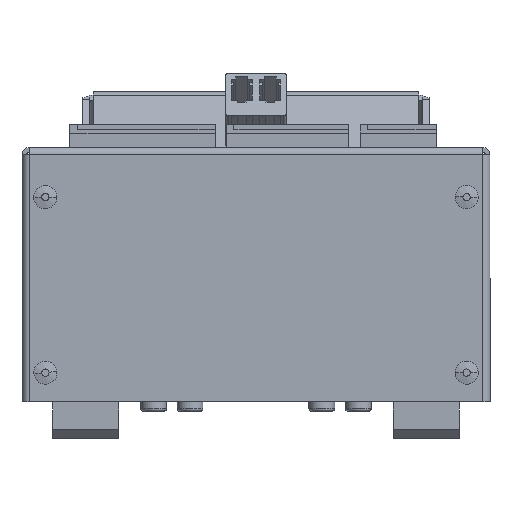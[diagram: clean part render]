
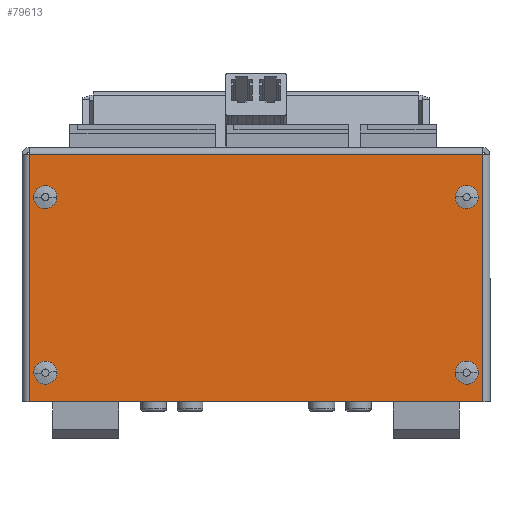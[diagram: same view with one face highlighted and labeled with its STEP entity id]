
A CAD part, front view. The second image highlights one B-rep face of the part: STEP entity #79613.
In plain terms, the highlighted planar face has unit normal (0, -1, 0).
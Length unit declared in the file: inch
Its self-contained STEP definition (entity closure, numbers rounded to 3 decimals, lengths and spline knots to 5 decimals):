
#3731 = EDGE_LOOP ( 'NONE', ( #33703, #73551 ) ) ;
#4108 = FACE_BOUND ( 'NONE', #3731, .T. ) ;
#4164 = ORIENTED_EDGE ( 'NONE', *, *, #42165, .T. ) ;
#6105 = EDGE_CURVE ( 'NONE', #11260, #48085, #73426, .T. ) ;
#8298 = CARTESIAN_POINT ( 'NONE',  ( 3.755, -3.75, 0.25 ) ) ;
#8416 = VERTEX_POINT ( 'NONE', #34561 ) ;
#10463 = DIRECTION ( 'NONE',  ( 0., 0., 1. ) ) ;
#10577 = DIRECTION ( 'NONE',  ( 0., 0., 1. ) ) ;
#11260 = VERTEX_POINT ( 'NONE', #112299 ) ;
#11315 = CIRCLE ( 'NONE', #99510, 0.049 ) ;
#11534 = EDGE_CURVE ( 'NONE', #104344, #88579, #118264, .T. ) ;
#13462 = DIRECTION ( 'NONE',  ( 0., 0., 1. ) ) ;
#14195 = DIRECTION ( 'NONE',  ( 0., 0., 1. ) ) ;
#14321 = CARTESIAN_POINT ( 'NONE',  ( 3.755, -3.75, 1.799 ) ) ;
#14746 = LINE ( 'NONE', #28350, #118788 ) ;
#18807 = AXIS2_PLACEMENT_3D ( 'NONE', #117415, #107318, #108114 ) ;
#19757 = EDGE_LOOP ( 'NONE', ( #111128, #41657 ) ) ;
#20050 = FACE_BOUND ( 'NONE', #19757, .T. ) ;
#23095 = DIRECTION ( 'NONE',  ( 0., 1., 0. ) ) ;
#23801 = VERTEX_POINT ( 'NONE', #91877 ) ;
#24742 = EDGE_CURVE ( 'NONE', #23801, #34709, #14746, .T. ) ;
#24897 = CARTESIAN_POINT ( 'NONE',  ( 3.755, -3.75, 0.201 ) ) ;
#25745 = DIRECTION ( 'NONE',  ( 0., 0., 1. ) ) ;
#26120 = EDGE_LOOP ( 'NONE', ( #4164, #79992 ) ) ;
#26927 = DIRECTION ( 'NONE',  ( 0., -1., 0. ) ) ;
#28350 = CARTESIAN_POINT ( 'NONE',  ( 3.892, -3.75, 0. ) ) ;
#28742 = FACE_BOUND ( 'NONE', #55740, .T. ) ;
#30913 = CARTESIAN_POINT ( 'NONE',  ( 3.755, -3.75, 0.25 ) ) ;
#33703 = ORIENTED_EDGE ( 'NONE', *, *, #70598, .T. ) ;
#34561 = CARTESIAN_POINT ( 'NONE',  ( 0.155, -3.75, 0.299 ) ) ;
#34675 = CARTESIAN_POINT ( 'NONE',  ( 0.018, -3.75, 0. ) ) ;
#34709 = VERTEX_POINT ( 'NONE', #101327 ) ;
#35882 = EDGE_CURVE ( 'NONE', #91044, #86265, #87454, .T. ) ;
#37331 = DIRECTION ( 'NONE',  ( 0., 1., 0. ) ) ;
#37740 = CARTESIAN_POINT ( 'NONE',  ( 0.018, -3.75, 0. ) ) ;
#40328 = ORIENTED_EDGE ( 'NONE', *, *, #35882, .T. ) ;
#41571 = CARTESIAN_POINT ( 'NONE',  ( 0.155, -3.75, 0.25 ) ) ;
#41613 = FACE_BOUND ( 'NONE', #26120, .T. ) ;
#41657 = ORIENTED_EDGE ( 'NONE', *, *, #86356, .T. ) ;
#42165 = EDGE_CURVE ( 'NONE', #48085, #11260, #104905, .T. ) ;
#43163 = CARTESIAN_POINT ( 'NONE',  ( 3.755, -3.75, 1.75 ) ) ;
#43812 = PLANE ( 'NONE',  #110642 ) ;
#45373 = VECTOR ( 'NONE', #51968, 39.37008 ) ;
#47306 = AXIS2_PLACEMENT_3D ( 'NONE', #50684, #99480, #13462 ) ;
#48085 = VERTEX_POINT ( 'NONE', #14321 ) ;
#50684 = CARTESIAN_POINT ( 'NONE',  ( 0.155, -3.75, 0.25 ) ) ;
#50969 = AXIS2_PLACEMENT_3D ( 'NONE', #91033, #80891, #25745 ) ;
#51968 = DIRECTION ( 'NONE',  ( -1., 0., 0. ) ) ;
#52463 = DIRECTION ( 'NONE',  ( 0., 0., 1. ) ) ;
#54179 = CARTESIAN_POINT ( 'NONE',  ( 0.155, -3.75, 0.201 ) ) ;
#54346 = VERTEX_POINT ( 'NONE', #54179 ) ;
#54588 = ORIENTED_EDGE ( 'NONE', *, *, #24742, .T. ) ;
#55726 = CARTESIAN_POINT ( 'NONE',  ( 0.018, -3.75, 2.112 ) ) ;
#55740 = EDGE_LOOP ( 'NONE', ( #40328, #117542 ) ) ;
#56983 = LINE ( 'NONE', #109925, #65618 ) ;
#58407 = ORIENTED_EDGE ( 'NONE', *, *, #11534, .F. ) ;
#60855 = CARTESIAN_POINT ( 'NONE',  ( 3.892, -3.75, 0. ) ) ;
#61158 = EDGE_CURVE ( 'NONE', #34709, #88579, #56983, .T. ) ;
#65618 = VECTOR ( 'NONE', #119251, 39.37008 ) ;
#67486 = DIRECTION ( 'NONE',  ( 0., 0., 1. ) ) ;
#67748 = CARTESIAN_POINT ( 'NONE',  ( 0.155, -3.75, 1.75 ) ) ;
#68861 = AXIS2_PLACEMENT_3D ( 'NONE', #67748, #78454, #80847 ) ;
#70598 = EDGE_CURVE ( 'NONE', #8416, #54346, #115757, .T. ) ;
#71427 = CIRCLE ( 'NONE', #77116, 0.049 ) ;
#73426 = CIRCLE ( 'NONE', #118899, 0.049 ) ;
#73551 = ORIENTED_EDGE ( 'NONE', *, *, #115266, .T. ) ;
#76416 = EDGE_CURVE ( 'NONE', #83221, #91197, #71427, .T. ) ;
#76694 = CARTESIAN_POINT ( 'NONE',  ( 3.755, -3.75, 0.299 ) ) ;
#76770 = DIRECTION ( 'NONE',  ( 0., 0., 1. ) ) ;
#77116 = AXIS2_PLACEMENT_3D ( 'NONE', #30913, #96202, #76770 ) ;
#78058 = ORIENTED_EDGE ( 'NONE', *, *, #61158, .T. ) ;
#78454 = DIRECTION ( 'NONE',  ( 0., 1., 0. ) ) ;
#79248 = CARTESIAN_POINT ( 'NONE',  ( 0.155, -3.75, 1.799 ) ) ;
#79613 = ADVANCED_FACE ( 'NONE', ( #20050, #41613, #28742, #4108, #112457 ), #43812, .T. ) ;
#79992 = ORIENTED_EDGE ( 'NONE', *, *, #6105, .T. ) ;
#80847 = DIRECTION ( 'NONE',  ( 0., 0., 1. ) ) ;
#80891 = DIRECTION ( 'NONE',  ( 0., 1., 0. ) ) ;
#81682 = DIRECTION ( 'NONE',  ( 0., 0., -1. ) ) ;
#83221 = VERTEX_POINT ( 'NONE', #76694 ) ;
#86265 = VERTEX_POINT ( 'NONE', #117741 ) ;
#86356 = EDGE_CURVE ( 'NONE', #91197, #83221, #100500, .T. ) ;
#86671 = CIRCLE ( 'NONE', #68861, 0.049 ) ;
#87450 = EDGE_CURVE ( 'NONE', #23801, #104344, #113308, .T. ) ;
#87454 = CIRCLE ( 'NONE', #18807, 0.049 ) ;
#88579 = VERTEX_POINT ( 'NONE', #55726 ) ;
#89711 = AXIS2_PLACEMENT_3D ( 'NONE', #8298, #37331, #67486 ) ;
#91033 = CARTESIAN_POINT ( 'NONE',  ( 3.755, -3.75, 1.75 ) ) ;
#91044 = VERTEX_POINT ( 'NONE', #79248 ) ;
#91197 = VERTEX_POINT ( 'NONE', #24897 ) ;
#91877 = CARTESIAN_POINT ( 'NONE',  ( 3.892, -3.75, 0. ) ) ;
#96202 = DIRECTION ( 'NONE',  ( 0., 1., 0. ) ) ;
#97664 = EDGE_LOOP ( 'NONE', ( #54588, #78058, #58407, #111361 ) ) ;
#97806 = EDGE_CURVE ( 'NONE', #86265, #91044, #86671, .T. ) ;
#99480 = DIRECTION ( 'NONE',  ( 0., 1., 0. ) ) ;
#99510 = AXIS2_PLACEMENT_3D ( 'NONE', #41571, #23095, #14195 ) ;
#100500 = CIRCLE ( 'NONE', #89711, 0.049 ) ;
#101327 = CARTESIAN_POINT ( 'NONE',  ( 3.892, -3.75, 2.112 ) ) ;
#104344 = VERTEX_POINT ( 'NONE', #37740 ) ;
#104905 = CIRCLE ( 'NONE', #50969, 0.049 ) ;
#107318 = DIRECTION ( 'NONE',  ( 0., 1., 0. ) ) ;
#107791 = DIRECTION ( 'NONE',  ( 0., 1., 0. ) ) ;
#108114 = DIRECTION ( 'NONE',  ( 0., 0., 1. ) ) ;
#109629 = CARTESIAN_POINT ( 'NONE',  ( -0.045, -3.75, 2.135 ) ) ;
#109925 = CARTESIAN_POINT ( 'NONE',  ( 0.018, -3.75, 2.112 ) ) ;
#110642 = AXIS2_PLACEMENT_3D ( 'NONE', #109629, #26927, #81682 ) ;
#111128 = ORIENTED_EDGE ( 'NONE', *, *, #76416, .T. ) ;
#111361 = ORIENTED_EDGE ( 'NONE', *, *, #87450, .F. ) ;
#112299 = CARTESIAN_POINT ( 'NONE',  ( 3.755, -3.75, 1.701 ) ) ;
#112457 = FACE_OUTER_BOUND ( 'NONE', #97664, .T. ) ;
#113308 = LINE ( 'NONE', #60855, #45373 ) ;
#115266 = EDGE_CURVE ( 'NONE', #54346, #8416, #11315, .T. ) ;
#115757 = CIRCLE ( 'NONE', #47306, 0.049 ) ;
#116809 = VECTOR ( 'NONE', #10463, 39.37008 ) ;
#117415 = CARTESIAN_POINT ( 'NONE',  ( 0.155, -3.75, 1.75 ) ) ;
#117542 = ORIENTED_EDGE ( 'NONE', *, *, #97806, .T. ) ;
#117741 = CARTESIAN_POINT ( 'NONE',  ( 0.155, -3.75, 1.701 ) ) ;
#118264 = LINE ( 'NONE', #34675, #116809 ) ;
#118788 = VECTOR ( 'NONE', #10577, 39.37008 ) ;
#118899 = AXIS2_PLACEMENT_3D ( 'NONE', #43163, #107791, #52463 ) ;
#119251 = DIRECTION ( 'NONE',  ( -1., 0., 0. ) ) ;
